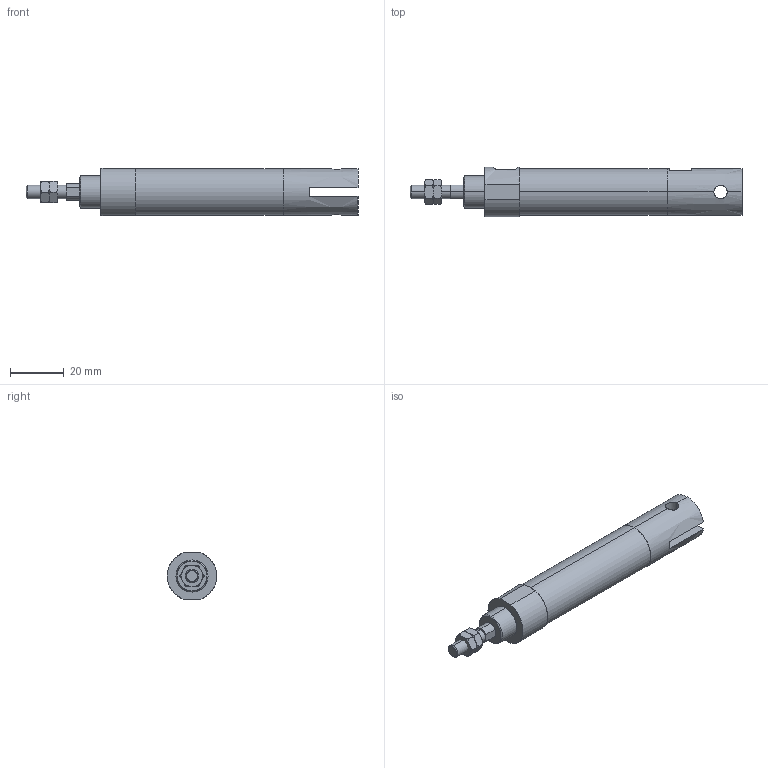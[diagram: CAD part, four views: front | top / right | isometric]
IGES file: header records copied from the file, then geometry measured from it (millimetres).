
Start section: SolidWorks IGES file using analytic representation for surfaces
Global section: file name: C:\Users\Toshiba\Desktop\ZGU2-16-30-W.IGS; native system: SolidWorks 2014; preprocessor: SolidWorks 2014; author: Toshiba; date: 160331.085929; units: millimetre
Bounding box: 124 x 18.5 x 17.6 mm (x, y, z)
Surface area: 7729.9 mm2 (no closed solid volume)
Topology: 0 solids, 0 shells, 94 faces, 1446 edges, 1442 vertices
Faces by surface type: bspline 61, revolution 33
